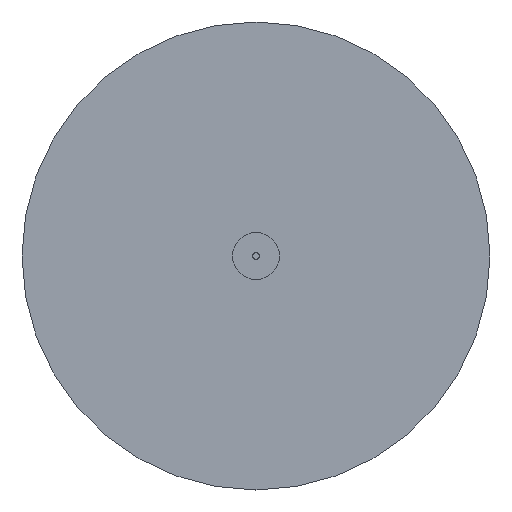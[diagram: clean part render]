
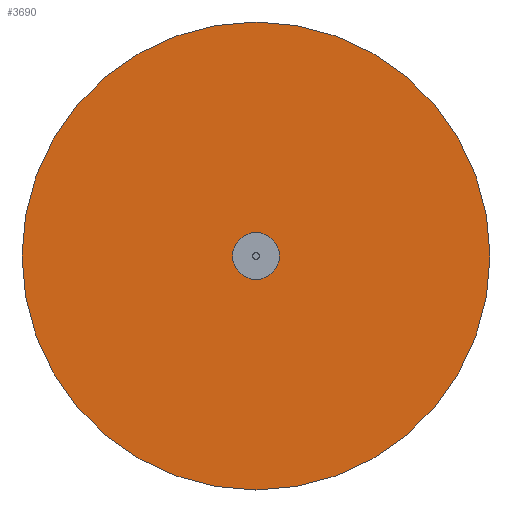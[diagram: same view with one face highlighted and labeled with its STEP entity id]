
A CAD part, front view. The second image highlights one B-rep face of the part: STEP entity #3690.
In plain terms, the highlighted planar face has unit normal (0, -1, 0).
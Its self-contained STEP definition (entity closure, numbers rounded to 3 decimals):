
#3390=CARTESIAN_POINT('',(70.,-21.5,0.));
#3391=VERTEX_POINT('',#3390);
#3407=CARTESIAN_POINT('',(-70.,-21.5,0.));
#3408=VERTEX_POINT('',#3407);
#3415=CARTESIAN_POINT('',(0.0,-21.5,0.));
#3416=DIRECTION('',(0.0,-1.0,0.0));
#3417=DIRECTION('',(1.0,0.0,0.0));
#3418=AXIS2_PLACEMENT_3D('',#3415,#3416,#3417);
#3419=CIRCLE('',#3418,70.);
#3420=EDGE_CURVE('',#3391,#3408,#3419,.T.);
#3482=CARTESIAN_POINT('',(7.,-21.5,0.));
#3483=VERTEX_POINT('',#3482);
#3508=CARTESIAN_POINT('',(-7.,-21.5,0.));
#3509=VERTEX_POINT('',#3508);
#3516=CARTESIAN_POINT('',(0.0,-21.5,0.));
#3517=DIRECTION('',(0.0,-1.0,0.0));
#3518=DIRECTION('',(1.0,0.0,0.0));
#3519=AXIS2_PLACEMENT_3D('',#3516,#3517,#3518);
#3520=CIRCLE('',#3519,7.);
#3521=EDGE_CURVE('',#3509,#3483,#3520,.T.);
#3600=CARTESIAN_POINT('',(0.0,-21.5,0.));
#3601=DIRECTION('',(0.0,-1.0,0.0));
#3602=DIRECTION('',(1.0,0.0,0.0));
#3603=AXIS2_PLACEMENT_3D('',#3600,#3601,#3602);
#3604=CIRCLE('',#3603,7.);
#3605=EDGE_CURVE('',#3483,#3509,#3604,.T.);
#3665=CARTESIAN_POINT('',(0.0,-21.5,0.));
#3666=DIRECTION('',(0.0,-1.0,0.0));
#3667=DIRECTION('',(1.0,0.0,0.0));
#3668=AXIS2_PLACEMENT_3D('',#3665,#3666,#3667);
#3669=CIRCLE('',#3668,70.);
#3670=EDGE_CURVE('',#3408,#3391,#3669,.T.);
#3677=CARTESIAN_POINT('',(38.5,-21.5,0.));
#3678=DIRECTION('',(0.0,-1.0,0.0));
#3679=DIRECTION('',(0.0,0.0,-1.0));
#3680=AXIS2_PLACEMENT_3D('',#3677,#3678,#3679);
#3681=PLANE('',#3680);
#3682=ORIENTED_EDGE('',*,*,#3420,.T.);
#3683=ORIENTED_EDGE('',*,*,#3670,.T.);
#3684=EDGE_LOOP('',(#3682,#3683));
#3685=FACE_OUTER_BOUND('',#3684,.T.);
#3686=ORIENTED_EDGE('',*,*,#3605,.F.);
#3687=ORIENTED_EDGE('',*,*,#3521,.F.);
#3688=EDGE_LOOP('',(#3686,#3687));
#3689=FACE_BOUND('',#3688,.T.);
#3690=ADVANCED_FACE('',(#3685,#3689),#3681,.T.);
